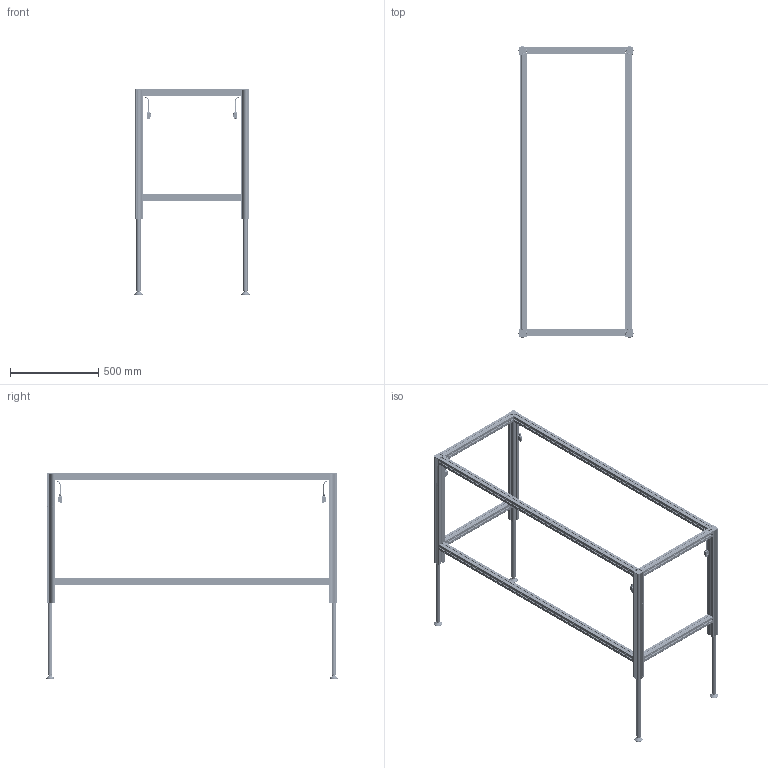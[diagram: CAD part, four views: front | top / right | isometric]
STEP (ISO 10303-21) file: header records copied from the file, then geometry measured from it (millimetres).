
FILE_DESCRIPTION(/* description */ ('Unknown'),/* implementation_level */ '2;1');
FILE_NAME(/* name */ 'Untergestell SQ.3 4340 1595 XX XX_00-Ausgefahren',/* time_stamp */ '2022-02-04T13:22:24+01:00',/* author */ ('Unknown'),/* organization */ ('Unknown'),/* preprocessor_version */ 'ST-DEVELOPER v18.1',/* originating_system */ 'Solid Edge',/* authorisation */ 'Unknown');
FILE_SCHEMA (('AUTOMOTIVE_DESIGN {1 0 10303 214 3 1 1}'));
Products named in the file (21): Untergestell SQ.3 4340 1595 XX XX; 907.02004_oa_0; 142.00014; 119.00501; 122.00005; 142.00020; 123.00111; 125.00051; 128.00040; Kabel Molex; 907.02004_oa_1; 115.00100; 119.00190; 142.00210; 113.00006; 113.00006-ohne Mutter; Mutter M10; 907.02004_oa_2; 907.02004_oa_3; 115.00104; 119.00194
Assembly tree (79 placements, depth 3):
  Untergestell SQ.3 4340 1595 XX XX
    907.02004_oa_0
      142.00014  x4
      119.00501
      122.00005
      142.00020  x4
      123.00111
      125.00051
      128.00040
      Kabel Molex
    907.02004_oa_1
      142.00014  x4
      119.00501
      122.00005
      142.00020  x4
      123.00111
      125.00051
      128.00040
      Kabel Molex
    115.00100  x4
      119.00190
      142.00210
    113.00006  x4
      113.00006-ohne Mutter
      Mutter M10
    907.02004_oa_2
      142.00014  x4
      119.00501
      122.00005
      142.00020  x4
      123.00111
      125.00051
      128.00040
      Kabel Molex
    907.02004_oa_3
      142.00014  x4
      119.00501
      122.00005
      142.00020  x4
      123.00111
      125.00051
      128.00040
      Kabel Molex
    115.00104  x3
      119.00194
      142.00210
Bounding box: 651 x 1651 x 1163 mm (x, y, z)
Volume: 7661849.3 mm3; surface area: 5452616.5 mm2
Topology: 99 solids, 99 shells, 13892 faces, 39146 edges, 25572 vertices
Faces by surface type: plane 7616, cylinder 4786, bspline 700, cone 310, torus 306, sphere 174
Full cylindrical faces by diameter (mm): 2.5 x52, 3 x16, 4 x48, 5 x40, 6.647 x4, 7.8 x14, 8.376 x12, 9.5 x4, 10 x4, 11.3 x14, 11.5 x14, 12 x14, 12.2 x14, 13.5 x14, 15 x4, 17.3 x4, 18 x28, 18.1 x14, 19 x8, 20.8 x12, 21 x8, 25 x12, 29 x4, 30 x8, 35 x4, 39 x4, 47 x4
Entity records: 120083 total; most frequent: CARTESIAN_POINT 27187, ORIENTED_EDGE 19200, DIRECTION 17815, EDGE_CURVE 9600, VERTEX_POINT 6349, AXIS2_PLACEMENT_3D 5949, LINE 5917, VECTOR 5917
